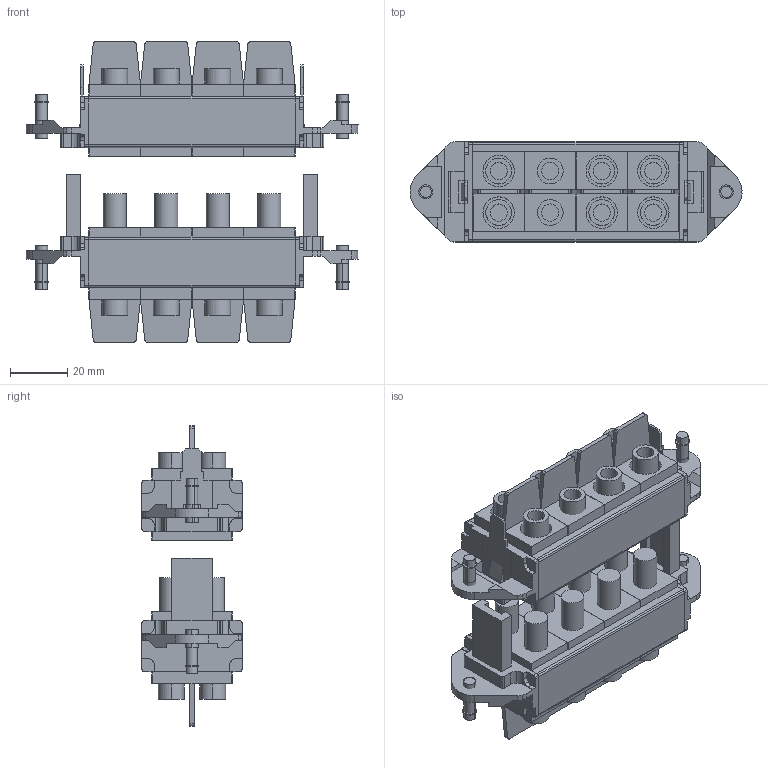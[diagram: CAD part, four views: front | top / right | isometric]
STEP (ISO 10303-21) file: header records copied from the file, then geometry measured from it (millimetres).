
FILE_DESCRIPTION(('CAx-IF Rec.Pracs.---Model Styling and Organization---1.2---2011-12-15','CAx-IF Rec.Pracs.---Geometric and Assembly Validation Properties---4.1---2014-06-16','CAx-IF Rec.Pracs.---PMI Polyline Presentation---2.0---2013-05-24'),'2;1');
FILE_NAME('R5M2WPC70.stp','2021-05-05T11:55:58+03:00',(''),(''),'STEP Interface 4.4 by CT CoreTechnologie','3D_Evolution4.4 by CT CoreTechnologie','');
FILE_SCHEMA(('AUTOMOTIVE_DESIGN { 1 0 10303 214 1 1 1 1 }'));
Length unit declared in the file: millimetre
Products named in the file (5): R5M2WPC70; M4x16 DIN 7985 PH cl4,8 Zinc_stright; M4 DIN 985 cl.5,0 Zinc_straight; Combitac 70A FeMale; Combitac 70A Male
Assembly tree (10 placements, depth 2):
  R5M2WPC70
    M4x16 DIN 7985 PH cl4,8 Zinc_stright  x4
    M4 DIN 985 cl.5,0 Zinc_straight  x4
    Combitac 70A FeMale
    Combitac 70A Male
Bounding box: 115.94 x 35 x 105 mm (x, y, z)
Surface area: 59946.6 mm2 (no closed solid volume)
Topology: 0 solids, 24 shells, 810 faces, 2044 edges, 1334 vertices
Faces by surface type: plane 506, cylinder 304
Entity records: 24052 total; most frequent: DIRECTION 4202, CARTESIAN_POINT 4115, ORIENTED_EDGE 4016, EDGE_CURVE 2008, VECTOR 1408, LINE 1408, AXIS2_PLACEMENT_3D 1397, VERTEX_POINT 1310
